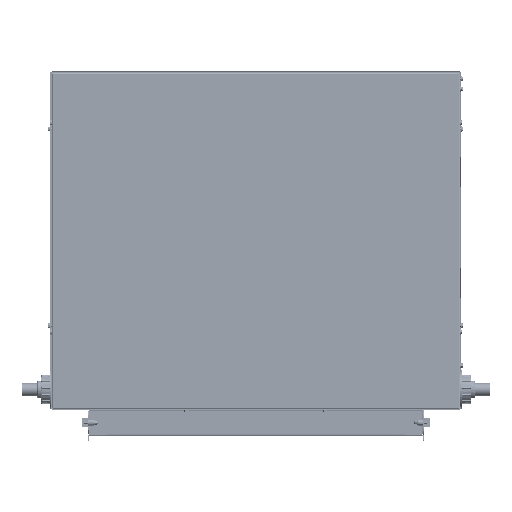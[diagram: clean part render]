
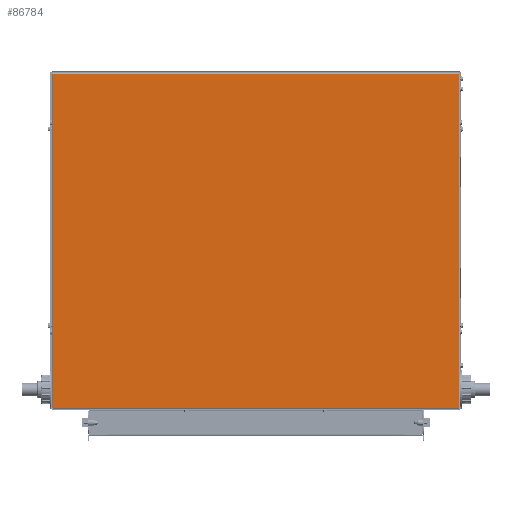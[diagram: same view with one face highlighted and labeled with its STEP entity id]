
A CAD part, front view. The second image highlights one B-rep face of the part: STEP entity #86784.
In plain terms, the highlighted planar face has unit normal (0, -1, 0) as drawn and (0, 0, -1) by its records, which use the part's own axes.
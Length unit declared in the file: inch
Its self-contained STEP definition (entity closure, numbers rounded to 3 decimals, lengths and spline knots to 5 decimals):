
#3233 = EDGE_CURVE ( 'NONE', #10379, #146918, #92612, .T. ) ;
#10379 = VERTEX_POINT ( 'NONE', #35616 ) ;
#14882 = VECTOR ( 'NONE', #122208, 39.37008 ) ;
#15155 = PLANE ( 'NONE',  #80455 ) ;
#24297 = FACE_OUTER_BOUND ( 'NONE', #95726, .T. ) ;
#35616 = CARTESIAN_POINT ( 'NONE',  ( 20.85112, 11.47697, 0. ) ) ;
#39176 = CARTESIAN_POINT ( 'NONE',  ( 20.85112, -28.40934, 0. ) ) ;
#39691 = CARTESIAN_POINT ( 'NONE',  ( 20.95812, 11.58397, 0. ) ) ;
#44290 = VECTOR ( 'NONE', #125249, 39.37008 ) ;
#44485 = CARTESIAN_POINT ( 'NONE',  ( 20.85112, -15.05903, 0. ) ) ;
#48067 = LINE ( 'NONE', #54255, #44290 ) ;
#51698 = DIRECTION ( 'NONE',  ( 0., -1., 0. ) ) ;
#53145 = EDGE_CURVE ( 'NONE', #138034, #127839, #102781, .T. ) ;
#54255 = CARTESIAN_POINT ( 'NONE',  ( -11.37238, -28.40934, 0. ) ) ;
#56249 = CARTESIAN_POINT ( 'NONE',  ( -11.37238, -15.05903, 0. ) ) ;
#56495 = ORIENTED_EDGE ( 'NONE', *, *, #3233, .F. ) ;
#59448 = CARTESIAN_POINT ( 'NONE',  ( 37.04513, -15.05903, 0. ) ) ;
#66572 = ORIENTED_EDGE ( 'NONE', *, *, #53145, .F. ) ;
#71940 = ORIENTED_EDGE ( 'NONE', *, *, #150093, .F. ) ;
#80455 = AXIS2_PLACEMENT_3D ( 'NONE', #39691, #122702, #51698 ) ;
#85206 = VECTOR ( 'NONE', #123628, 39.37008 ) ;
#86784 = ADVANCED_FACE ( 'NONE', ( #24297 ), #15155, .F. ) ;
#92612 = LINE ( 'NONE', #123771, #85206 ) ;
#95726 = EDGE_LOOP ( 'NONE', ( #56495, #99401, #66572, #71940 ) ) ;
#99401 = ORIENTED_EDGE ( 'NONE', *, *, #128927, .F. ) ;
#102781 = LINE ( 'NONE', #59448, #126760 ) ;
#106171 = LINE ( 'NONE', #39176, #14882 ) ;
#122208 = DIRECTION ( 'NONE',  ( 0., 1., 0. ) ) ;
#122702 = DIRECTION ( 'NONE',  ( 0., 0., 1. ) ) ;
#123628 = DIRECTION ( 'NONE',  ( -1., 0., 0. ) ) ;
#123771 = CARTESIAN_POINT ( 'NONE',  ( -27.56638, 11.47697, 0. ) ) ;
#125249 = DIRECTION ( 'NONE',  ( 0., -1., 0. ) ) ;
#126760 = VECTOR ( 'NONE', #142413, 39.37008 ) ;
#127839 = VERTEX_POINT ( 'NONE', #44485 ) ;
#128927 = EDGE_CURVE ( 'NONE', #127839, #10379, #106171, .T. ) ;
#138034 = VERTEX_POINT ( 'NONE', #56249 ) ;
#142413 = DIRECTION ( 'NONE',  ( 1., 0., 0. ) ) ;
#144764 = CARTESIAN_POINT ( 'NONE',  ( -11.37238, 11.47697, 0. ) ) ;
#146918 = VERTEX_POINT ( 'NONE', #144764 ) ;
#150093 = EDGE_CURVE ( 'NONE', #146918, #138034, #48067, .T. ) ;
